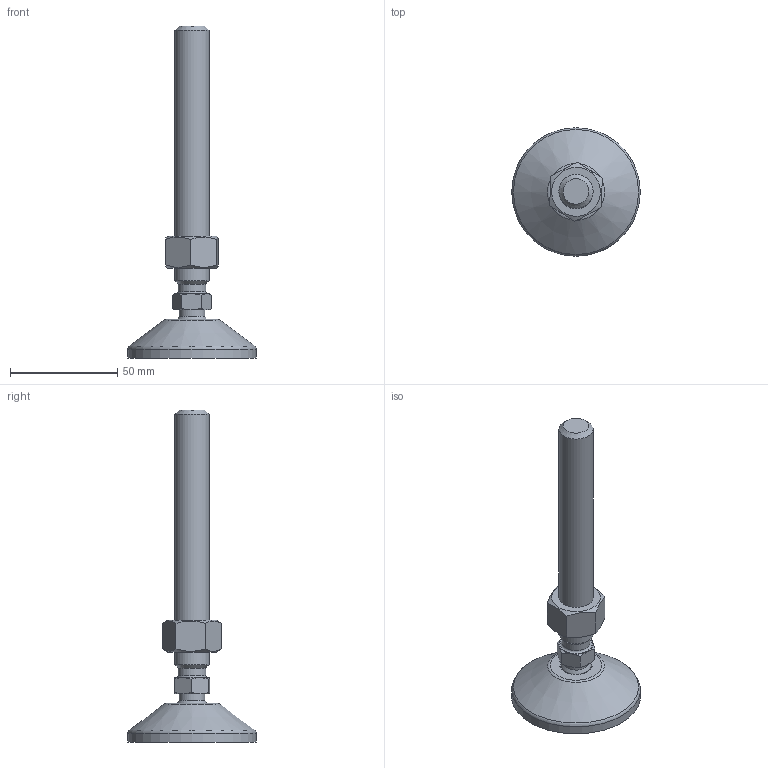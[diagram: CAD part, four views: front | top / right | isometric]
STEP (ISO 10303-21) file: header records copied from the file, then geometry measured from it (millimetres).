
FILE_DESCRIPTION(('STEP AP203'), '1');
FILE_NAME('栖闉罻', '', ('UNSPECIFIED'), ('UNSPECIFIED'), 'C3D Converter', 'C3D Toolkit', '');
FILE_SCHEMA(('CONFIG_CONTROL_DESIGN'));
Length unit declared in the file: millimetre
Products named in the file (4): A00020.116125; A00015.1060
Assembly tree (3 placements, depth 3):
  (unnamed)
    A00020.116125
      (unnamed)
    A00015.1060
Bounding box: 60 x 60 x 155.02 mm (x, y, z)
Volume: 53079.7 mm3; surface area: 19916.1 mm2
Topology: 3 solids, 3 shells, 163 faces, 430 edges, 285 vertices
Faces by surface type: plane 86, cylinder 34, torus 21, cone 20, sphere 2
Full cylindrical faces by diameter (mm): 4 x8, 12 x1, 13 x1, 13.835 x1, 14.3 x1, 15 x2, 15.5 x1, 16 x1, 50.5 x1, 60 x1
Entity records: 8670 total; most frequent: CARTESIAN_POINT 3262, DIRECTION 814, ORIENTED_EDGE 790, EDGE_CURVE 395, AXIS2_PLACEMENT_3D 337, VERTEX_POINT 284, EDGE_LOOP 211, FACE_BOUND 174
